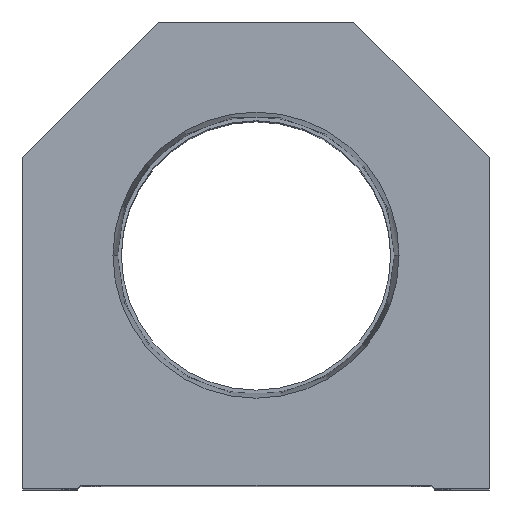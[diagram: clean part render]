
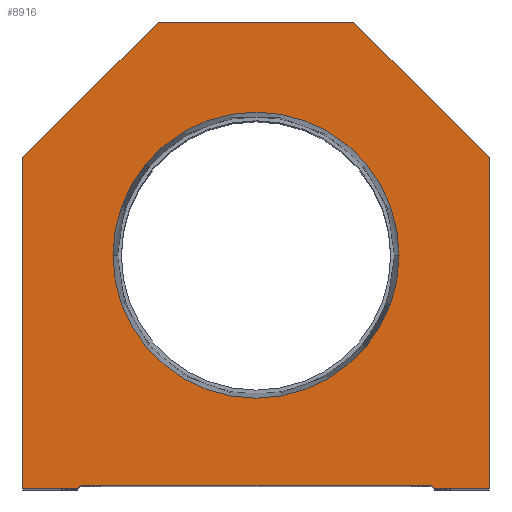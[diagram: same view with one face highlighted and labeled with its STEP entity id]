
A CAD part, top view. The second image highlights one B-rep face of the part: STEP entity #8916.
In plain terms, the highlighted planar face has unit normal (0, 0, 1).
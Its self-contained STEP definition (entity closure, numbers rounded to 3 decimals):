
#114 = VECTOR ( 'NONE', #8339, 1000. ) ;
#153 = VERTEX_POINT ( 'NONE', #4308 ) ;
#308 = VECTOR ( 'NONE', #1867, 1000. ) ;
#365 = ORIENTED_EDGE ( 'NONE', *, *, #3160, .T. ) ;
#542 = CARTESIAN_POINT ( 'NONE',  ( 29.1, 0., 0. ) ) ;
#653 = DIRECTION ( 'NONE',  ( 0., 0., 1. ) ) ;
#821 = LINE ( 'NONE', #11452, #5436 ) ;
#858 = ORIENTED_EDGE ( 'NONE', *, *, #10757, .T. ) ;
#1157 = EDGE_CURVE ( 'NONE', #8124, #6703, #8909, .T. ) ;
#1259 = LINE ( 'NONE', #2483, #11449 ) ;
#1469 = LINE ( 'NONE', #5079, #114 ) ;
#1519 = VECTOR ( 'NONE', #3972, 1000. ) ;
#1548 = DIRECTION ( 'NONE',  ( 0., 0., 1. ) ) ;
#1591 = CARTESIAN_POINT ( 'NONE',  ( 38.1, 54.1, 0. ) ) ;
#1616 = CARTESIAN_POINT ( 'NONE',  ( -29.1, 0., 0. ) ) ;
#1617 = ORIENTED_EDGE ( 'NONE', *, *, #13842, .F. ) ;
#1735 = CARTESIAN_POINT ( 'NONE',  ( 16., 76.2, 0. ) ) ;
#1850 = CARTESIAN_POINT ( 'NONE',  ( 38.1, 54.1, 0. ) ) ;
#1867 = DIRECTION ( 'NONE',  ( -0.707, -0.707, 0. ) ) ;
#2013 = ORIENTED_EDGE ( 'NONE', *, *, #15155, .T. ) ;
#2068 = VERTEX_POINT ( 'NONE', #10804 ) ;
#2116 = VERTEX_POINT ( 'NONE', #10029 ) ;
#2170 = LINE ( 'NONE', #5870, #2206 ) ;
#2206 = VECTOR ( 'NONE', #5629, 1000. ) ;
#2432 = VERTEX_POINT ( 'NONE', #1616 ) ;
#2483 = CARTESIAN_POINT ( 'NONE',  ( 38.1, 0., 0. ) ) ;
#2957 = VECTOR ( 'NONE', #8468, 1000. ) ;
#2997 = EDGE_CURVE ( 'NONE', #7315, #153, #8579, .T. ) ;
#3105 = FACE_OUTER_BOUND ( 'NONE', #10491, .T. ) ;
#3160 = EDGE_CURVE ( 'NONE', #6574, #11730, #8226, .T. ) ;
#3635 = EDGE_CURVE ( 'NONE', #2068, #6574, #1469, .T. ) ;
#3972 = DIRECTION ( 'NONE',  ( -1., 0., 0. ) ) ;
#3991 = VECTOR ( 'NONE', #12288, 1000. ) ;
#4116 = CARTESIAN_POINT ( 'NONE',  ( 16., 76.2, 0. ) ) ;
#4120 = CARTESIAN_POINT ( 'NONE',  ( -14.55, 14.55, 0. ) ) ;
#4210 = CIRCLE ( 'NONE', #12832, 23.374 ) ;
#4268 = FACE_BOUND ( 'NONE', #6348, .T. ) ;
#4308 = CARTESIAN_POINT ( 'NONE',  ( 23.374, 38.1, 0. ) ) ;
#4561 = DIRECTION ( 'NONE',  ( 0., 1., 0. ) ) ;
#4662 = DIRECTION ( 'NONE',  ( 1., 0., 0. ) ) ;
#5079 = CARTESIAN_POINT ( 'NONE',  ( 14.55, 14.55, 0. ) ) ;
#5436 = VECTOR ( 'NONE', #4662, 1000. ) ;
#5489 = PLANE ( 'NONE',  #12248 ) ;
#5629 = DIRECTION ( 'NONE',  ( 0., -1., 0. ) ) ;
#5870 = CARTESIAN_POINT ( 'NONE',  ( -38.1, 0., 0. ) ) ;
#6010 = EDGE_CURVE ( 'NONE', #11730, #9984, #1259, .T. ) ;
#6052 = LINE ( 'NONE', #6124, #13088 ) ;
#6124 = CARTESIAN_POINT ( 'NONE',  ( -28.6, 0.5, 0. ) ) ;
#6292 = ORIENTED_EDGE ( 'NONE', *, *, #3635, .T. ) ;
#6348 = EDGE_LOOP ( 'NONE', ( #1617, #10847 ) ) ;
#6434 = VERTEX_POINT ( 'NONE', #8007 ) ;
#6497 = DIRECTION ( 'NONE',  ( 1., 0., 0. ) ) ;
#6574 = VERTEX_POINT ( 'NONE', #542 ) ;
#6683 = ORIENTED_EDGE ( 'NONE', *, *, #11799, .T. ) ;
#6703 = VERTEX_POINT ( 'NONE', #7050 ) ;
#6834 = ORIENTED_EDGE ( 'NONE', *, *, #7403, .T. ) ;
#7050 = CARTESIAN_POINT ( 'NONE',  ( -38.1, 54.1, 0. ) ) ;
#7261 = EDGE_CURVE ( 'NONE', #2116, #2432, #821, .T. ) ;
#7315 = VERTEX_POINT ( 'NONE', #10699 ) ;
#7403 = EDGE_CURVE ( 'NONE', #2432, #6434, #13454, .T. ) ;
#7448 = DIRECTION ( 'NONE',  ( 1., 0., 0. ) ) ;
#7714 = CARTESIAN_POINT ( 'NONE',  ( -38.1, 54.1, 0. ) ) ;
#7728 = DIRECTION ( 'NONE',  ( 1., 0., 0. ) ) ;
#8007 = CARTESIAN_POINT ( 'NONE',  ( -28.6, 0.5, 0. ) ) ;
#8124 = VERTEX_POINT ( 'NONE', #12686 ) ;
#8226 = LINE ( 'NONE', #11846, #14858 ) ;
#8292 = ORIENTED_EDGE ( 'NONE', *, *, #12249, .T. ) ;
#8339 = DIRECTION ( 'NONE',  ( 0.707, -0.707, 0. ) ) ;
#8468 = DIRECTION ( 'NONE',  ( -0.707, 0.707, 0. ) ) ;
#8546 = DIRECTION ( 'NONE',  ( 1., 0., 0. ) ) ;
#8579 = CIRCLE ( 'NONE', #10046, 23.374 ) ;
#8779 = CARTESIAN_POINT ( 'NONE',  ( 0., 0., 0. ) ) ;
#8864 = CARTESIAN_POINT ( 'NONE',  ( 0., 38.1, 0. ) ) ;
#8909 = LINE ( 'NONE', #7714, #308 ) ;
#8916 = ADVANCED_FACE ( 'NONE', ( #4268, #3105 ), #5489, .T. ) ;
#8995 = CARTESIAN_POINT ( 'NONE',  ( 0., 38.1, 0. ) ) ;
#9200 = CARTESIAN_POINT ( 'NONE',  ( 38.1, 0., 0. ) ) ;
#9984 = VERTEX_POINT ( 'NONE', #1850 ) ;
#10029 = CARTESIAN_POINT ( 'NONE',  ( -38.1, 0., 0. ) ) ;
#10046 = AXIS2_PLACEMENT_3D ( 'NONE', #8864, #1548, #7448 ) ;
#10491 = EDGE_LOOP ( 'NONE', ( #14954, #6834, #2013, #6292, #365, #12603, #858, #8292, #14524, #6683 ) ) ;
#10699 = CARTESIAN_POINT ( 'NONE',  ( -23.374, 38.1, 0. ) ) ;
#10757 = EDGE_CURVE ( 'NONE', #9984, #10823, #14394, .T. ) ;
#10804 = CARTESIAN_POINT ( 'NONE',  ( 28.6, 0.5, 0. ) ) ;
#10823 = VERTEX_POINT ( 'NONE', #4116 ) ;
#10847 = ORIENTED_EDGE ( 'NONE', *, *, #2997, .F. ) ;
#10855 = DIRECTION ( 'NONE',  ( 1., 0., 0. ) ) ;
#10981 = LINE ( 'NONE', #1735, #1519 ) ;
#11449 = VECTOR ( 'NONE', #4561, 1000. ) ;
#11452 = CARTESIAN_POINT ( 'NONE',  ( -28.6, 0., 0. ) ) ;
#11730 = VERTEX_POINT ( 'NONE', #9200 ) ;
#11799 = EDGE_CURVE ( 'NONE', #6703, #2116, #2170, .T. ) ;
#11846 = CARTESIAN_POINT ( 'NONE',  ( 28.6, 0., 0. ) ) ;
#12248 = AXIS2_PLACEMENT_3D ( 'NONE', #8779, #14919, #6497 ) ;
#12249 = EDGE_CURVE ( 'NONE', #10823, #8124, #10981, .T. ) ;
#12288 = DIRECTION ( 'NONE',  ( 0.707, 0.707, 0. ) ) ;
#12603 = ORIENTED_EDGE ( 'NONE', *, *, #6010, .T. ) ;
#12686 = CARTESIAN_POINT ( 'NONE',  ( -16., 76.2, 0. ) ) ;
#12832 = AXIS2_PLACEMENT_3D ( 'NONE', #8995, #653, #7728 ) ;
#13088 = VECTOR ( 'NONE', #8546, 1000. ) ;
#13454 = LINE ( 'NONE', #4120, #3991 ) ;
#13842 = EDGE_CURVE ( 'NONE', #153, #7315, #4210, .T. ) ;
#14394 = LINE ( 'NONE', #1591, #2957 ) ;
#14524 = ORIENTED_EDGE ( 'NONE', *, *, #1157, .T. ) ;
#14858 = VECTOR ( 'NONE', #10855, 1000. ) ;
#14919 = DIRECTION ( 'NONE',  ( 0., 0., 1. ) ) ;
#14954 = ORIENTED_EDGE ( 'NONE', *, *, #7261, .T. ) ;
#15155 = EDGE_CURVE ( 'NONE', #6434, #2068, #6052, .T. ) ;
